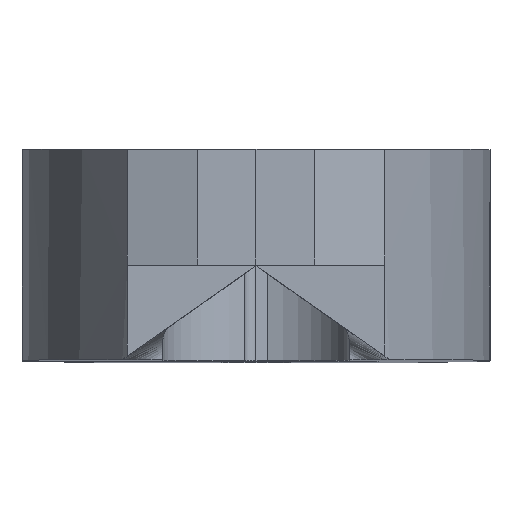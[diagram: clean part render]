
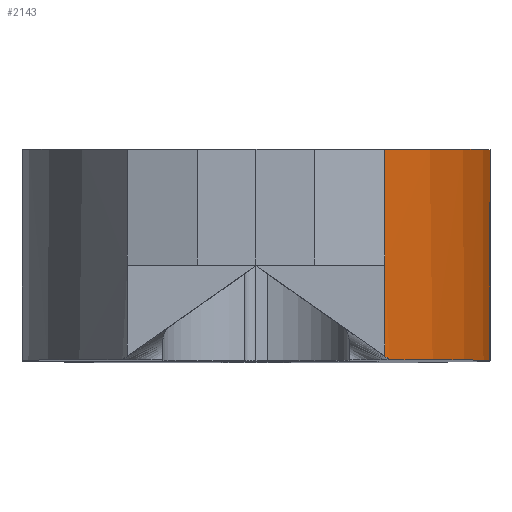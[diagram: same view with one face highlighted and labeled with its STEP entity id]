
A CAD part, top view. The second image highlights one B-rep face of the part: STEP entity #2143.
In plain terms, the highlighted cylindrical face has radius 20 mm (diameter 40 mm), a partial arc.
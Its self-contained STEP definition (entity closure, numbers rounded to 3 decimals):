
#63 = CARTESIAN_POINT ( 'NONE',  ( 10., 4.5, 21.557 ) ) ;
#83 = VERTEX_POINT ( 'NONE', #515 ) ;
#176 = AXIS2_PLACEMENT_3D ( 'NONE', #190, #178, #483 ) ;
#178 = DIRECTION ( 'NONE',  ( 0., 1., 0. ) ) ;
#190 = CARTESIAN_POINT ( 'NONE',  ( -10., 9., 21.557 ) ) ;
#203 = LINE ( 'NONE', #2247, #3020 ) ;
#262 = VERTEX_POINT ( 'NONE', #1394 ) ;
#356 = ORIENTED_EDGE ( 'NONE', *, *, #1946, .T. ) ;
#410 = CARTESIAN_POINT ( 'NONE',  ( 10., 0., 21.557 ) ) ;
#450 = CARTESIAN_POINT ( 'NONE',  ( 5.713, 0., 33.931 ) ) ;
#483 = DIRECTION ( 'NONE',  ( 0., 0., 1. ) ) ;
#484 = VECTOR ( 'NONE', #1140, 1000. ) ;
#515 = CARTESIAN_POINT ( 'NONE',  ( 5.5, 4., 34.196 ) ) ;
#538 = VECTOR ( 'NONE', #1825, 1000. ) ;
#632 = ORIENTED_EDGE ( 'NONE', *, *, #907, .T. ) ;
#645 = CIRCLE ( 'NONE', #176, 20. ) ;
#881 = EDGE_CURVE ( 'NONE', #3234, #262, #2253, .T. ) ;
#894 = DIRECTION ( 'NONE',  ( 0., 0., 1. ) ) ;
#907 = EDGE_CURVE ( 'NONE', #83, #262, #1263, .T. ) ;
#930 = DIRECTION ( 'NONE',  ( 0., 1., 0. ) ) ;
#949 = EDGE_CURVE ( 'NONE', #1593, #83, #203, .T. ) ;
#1113 = CARTESIAN_POINT ( 'NONE',  ( 5.5, 0.149, 34.196 ) ) ;
#1140 = DIRECTION ( 'NONE',  ( 0., -1., 0. ) ) ;
#1207 = LINE ( 'NONE', #63, #484 ) ;
#1259 = CIRCLE ( 'NONE', #1713, 20. ) ;
#1263 = LINE ( 'NONE', #1901, #538 ) ;
#1394 = CARTESIAN_POINT ( 'NONE',  ( 5.5, 0.149, 34.196 ) ) ;
#1536 = CARTESIAN_POINT ( 'NONE',  ( -10., 0., 21.557 ) ) ;
#1593 = VERTEX_POINT ( 'NONE', #3354 ) ;
#1687 = ORIENTED_EDGE ( 'NONE', *, *, #949, .T. ) ;
#1713 = AXIS2_PLACEMENT_3D ( 'NONE', #3100, #930, #894 ) ;
#1811 = DIRECTION ( 'NONE',  ( 0., 1., 0. ) ) ;
#1825 = DIRECTION ( 'NONE',  ( 0., -1., 0. ) ) ;
#1860 = CARTESIAN_POINT ( 'NONE',  ( 5.713, 0., 33.931 ) ) ;
#1874 = FACE_OUTER_BOUND ( 'NONE', #2034, .T. ) ;
#1887 = CARTESIAN_POINT ( 'NONE',  ( 10., 9., 21.557 ) ) ;
#1900 = VERTEX_POINT ( 'NONE', #410 ) ;
#1901 = CARTESIAN_POINT ( 'NONE',  ( 5.5, 4.5, 34.196 ) ) ;
#1946 = EDGE_CURVE ( 'NONE', #3234, #1900, #1259, .T. ) ;
#2034 = EDGE_LOOP ( 'NONE', ( #1687, #632, #3152, #356, #3422, #2112 ) ) ;
#2112 = ORIENTED_EDGE ( 'NONE', *, *, #2498, .F. ) ;
#2117 = DIRECTION ( 'NONE',  ( 0., -1., 0. ) ) ;
#2127 = DIRECTION ( 'NONE',  ( 0., 0., 1. ) ) ;
#2143 = ADVANCED_FACE ( 'NONE', ( #1874 ), #2439, .T. ) ;
#2163 = AXIS2_PLACEMENT_3D ( 'NONE', #1536, #1811, #2127 ) ;
#2223 = CARTESIAN_POINT ( 'NONE',  ( 5.642, 0.049, 34.02 ) ) ;
#2247 = CARTESIAN_POINT ( 'NONE',  ( 5.5, 4.5, 34.196 ) ) ;
#2253 =( BOUNDED_CURVE ( )  B_SPLINE_CURVE ( 3, ( #1860, #2223, #2417, #1113 ),
 .UNSPECIFIED., .F., .T. ) 
 B_SPLINE_CURVE_WITH_KNOTS ( ( 4, 4 ),
 ( 3.809, 3.826 ),
 .UNSPECIFIED. ) 
 CURVE ( )  GEOMETRIC_REPRESENTATION_ITEM ( )  RATIONAL_B_SPLINE_CURVE ( ( 1., 1., 1., 1. ) ) 
 REPRESENTATION_ITEM ( '' )  );
#2417 = CARTESIAN_POINT ( 'NONE',  ( 5.572, 0.099, 34.108 ) ) ;
#2439 = CYLINDRICAL_SURFACE ( 'NONE', #2163, 20. ) ;
#2498 = EDGE_CURVE ( 'NONE', #1593, #2512, #645, .T. ) ;
#2512 = VERTEX_POINT ( 'NONE', #1887 ) ;
#3020 = VECTOR ( 'NONE', #2117, 1000. ) ;
#3090 = EDGE_CURVE ( 'NONE', #2512, #1900, #1207, .T. ) ;
#3100 = CARTESIAN_POINT ( 'NONE',  ( -10., 0., 21.557 ) ) ;
#3152 = ORIENTED_EDGE ( 'NONE', *, *, #881, .F. ) ;
#3234 = VERTEX_POINT ( 'NONE', #450 ) ;
#3354 = CARTESIAN_POINT ( 'NONE',  ( 5.5, 9., 34.196 ) ) ;
#3422 = ORIENTED_EDGE ( 'NONE', *, *, #3090, .F. ) ;
